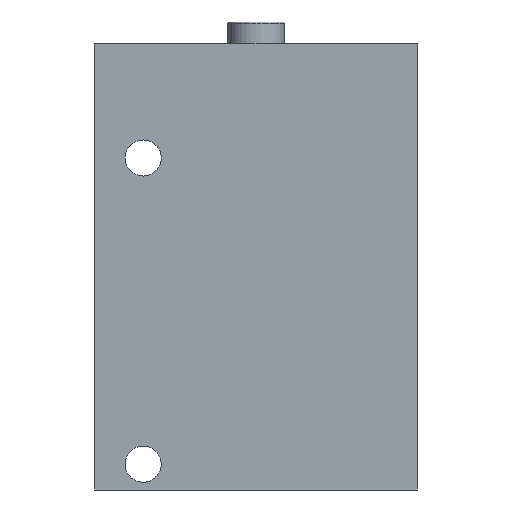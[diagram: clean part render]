
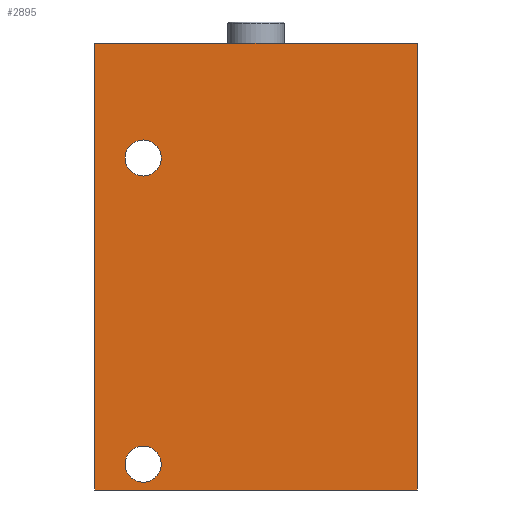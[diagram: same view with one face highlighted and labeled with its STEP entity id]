
A CAD part, front view. The second image highlights one B-rep face of the part: STEP entity #2895.
In plain terms, the highlighted planar face has unit normal (0, -1, 0).
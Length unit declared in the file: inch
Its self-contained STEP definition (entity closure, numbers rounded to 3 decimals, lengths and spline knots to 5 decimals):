
#111=CIRCLE('',#3056,0.14);
#113=CIRCLE('',#3059,0.14);
#276=FACE_BOUND('',#738,.T.);
#277=FACE_BOUND('',#739,.T.);
#278=FACE_BOUND('',#740,.T.);
#738=EDGE_LOOP('',(#2413));
#739=EDGE_LOOP('',(#2414));
#740=EDGE_LOOP('',(#2415,#2416,#2417,#2418));
#902=LINE('',#4323,#1102);
#1042=LINE('',#4910,#1242);
#1044=LINE('',#5100,#1244);
#1046=LINE('',#5111,#1246);
#1102=VECTOR('',#3307,3.464);
#1242=VECTOR('',#3545,3.464);
#1244=VECTOR('',#3657,2.5);
#1246=VECTOR('',#3671,2.5);
#1300=VERTEX_POINT('',#4320);
#1301=VERTEX_POINT('',#4322);
#1412=VERTEX_POINT('',#4903);
#1415=VERTEX_POINT('',#4908);
#1431=VERTEX_POINT('',#4955);
#1433=VERTEX_POINT('',#4960);
#1584=EDGE_CURVE('',#1301,#1300,#902,.T.);
#1753=EDGE_CURVE('',#1415,#1412,#1042,.T.);
#1769=EDGE_CURVE('',#1431,#1431,#111,.T.);
#1771=EDGE_CURVE('',#1433,#1433,#113,.T.);
#1786=EDGE_CURVE('',#1300,#1412,#1044,.T.);
#1791=EDGE_CURVE('',#1415,#1301,#1046,.T.);
#2413=ORIENTED_EDGE('',*,*,#1769,.T.);
#2414=ORIENTED_EDGE('',*,*,#1771,.T.);
#2415=ORIENTED_EDGE('',*,*,#1786,.T.);
#2416=ORIENTED_EDGE('',*,*,#1753,.F.);
#2417=ORIENTED_EDGE('',*,*,#1791,.T.);
#2418=ORIENTED_EDGE('',*,*,#1584,.T.);
#2612=PLANE('',#3099);
#2895=ADVANCED_FACE('',(#276,#277,#278),#2612,.T.);
#3056=AXIS2_PLACEMENT_3D('',#4956,#3604,#3605);
#3059=AXIS2_PLACEMENT_3D('',#4961,#3610,#3611);
#3099=AXIS2_PLACEMENT_3D('',#5127,#3694,#3695);
#3307=DIRECTION('',(0.,0.,-1.));
#3545=DIRECTION('',(0.,0.,-1.));
#3604=DIRECTION('center_axis',(0.,1.,0.));
#3605=DIRECTION('ref_axis',(1.,0.,0.));
#3610=DIRECTION('center_axis',(0.,1.,0.));
#3611=DIRECTION('ref_axis',(1.,0.,0.));
#3657=DIRECTION('',(1.,0.,0.));
#3671=DIRECTION('',(-1.,0.,0.));
#3694=DIRECTION('center_axis',(0.,-1.,0.));
#3695=DIRECTION('ref_axis',(0.,0.,-1.));
#4320=CARTESIAN_POINT('',(-1.25,-0.75,-3.464));
#4322=CARTESIAN_POINT('',(-1.25,-0.75,0.));
#4323=CARTESIAN_POINT('',(-1.25,-0.75,0.));
#4903=CARTESIAN_POINT('',(1.25,-0.75,-3.464));
#4908=CARTESIAN_POINT('',(1.25,-0.75,0.));
#4910=CARTESIAN_POINT('',(1.25,-0.75,0.));
#4955=CARTESIAN_POINT('',(-0.735,-0.75,-0.889));
#4956=CARTESIAN_POINT('Origin',(-0.875,-0.75,-0.889));
#4960=CARTESIAN_POINT('',(-0.735,-0.75,-3.264));
#4961=CARTESIAN_POINT('Origin',(-0.875,-0.75,-3.264));
#5100=CARTESIAN_POINT('',(1.25,-0.75,-3.464));
#5111=CARTESIAN_POINT('',(1.25,-0.75,0.));
#5127=CARTESIAN_POINT('Origin',(-1.25,-0.75,0.));
